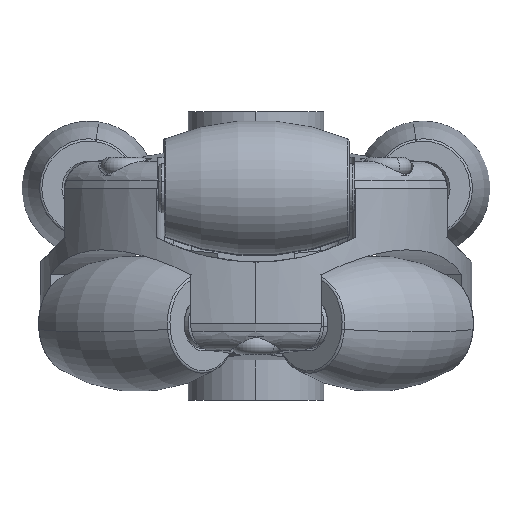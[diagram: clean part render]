
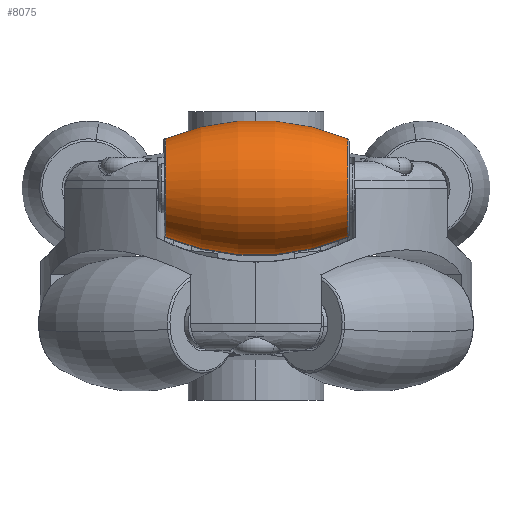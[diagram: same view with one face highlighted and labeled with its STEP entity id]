
A CAD part, left-side view. The second image highlights one B-rep face of the part: STEP entity #8075.
In plain terms, the highlighted toroidal (fillet/blend) face has major radius 13.55 mm and minor radius 19.05 mm.
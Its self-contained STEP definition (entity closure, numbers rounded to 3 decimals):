
#482 = EDGE_LOOP ( 'NONE', ( #10405, #10990, #2595, #3782 ) ) ;
#483 = DIRECTION ( 'NONE',  ( -1., 0., 0. ) ) ;
#692 = CIRCLE ( 'NONE', #7516, 19.05 ) ;
#1814 = CIRCLE ( 'NONE', #2888, 4.013 ) ;
#1968 = CARTESIAN_POINT ( 'NONE',  ( 211155.908, 8890.657, 0. ) ) ;
#2198 = TOROIDAL_SURFACE ( 'NONE', #10912, -13.55, 19.05 ) ;
#2464 = EDGE_CURVE ( 'NONE', #5186, #12121, #692, .T. ) ;
#2595 = ORIENTED_EDGE ( 'NONE', *, *, #11932, .F. ) ;
#2888 = AXIS2_PLACEMENT_3D ( 'NONE', #9676, #5365, #3916 ) ;
#2911 = EDGE_CURVE ( 'NONE', #5186, #13402, #1814, .T. ) ;
#3641 = VERTEX_POINT ( 'NONE', #9279 ) ;
#3782 = ORIENTED_EDGE ( 'NONE', *, *, #2464, .F. ) ;
#3916 = DIRECTION ( 'NONE',  ( 0., 0., 1. ) ) ;
#4996 = CIRCLE ( 'NONE', #8402, 4.013 ) ;
#5186 = VERTEX_POINT ( 'NONE', #6557 ) ;
#5307 = DIRECTION ( 'NONE',  ( 0., 0., -1. ) ) ;
#5365 = DIRECTION ( 'NONE',  ( -1., 0., 0. ) ) ;
#5976 = DIRECTION ( 'NONE',  ( 0., 0., 1. ) ) ;
#6244 = AXIS2_PLACEMENT_3D ( 'NONE', #13499, #10625, #9169 ) ;
#6557 = CARTESIAN_POINT ( 'NONE',  ( 211163.286, 8890.657, 4.013 ) ) ;
#6732 = DIRECTION ( 'NONE',  ( 0., -1., 0. ) ) ;
#7272 = CARTESIAN_POINT ( 'NONE',  ( 211163.286, 8890.657, -4.013 ) ) ;
#7413 = DIRECTION ( 'NONE',  ( -1., 0., 0. ) ) ;
#7516 = AXIS2_PLACEMENT_3D ( 'NONE', #8154, #6732, #5307 ) ;
#8075 = ADVANCED_FACE ( 'NONE', ( #11259 ), #2198, .T. ) ;
#8154 = CARTESIAN_POINT ( 'NONE',  ( 211155.908, 8890.657, -13.55 ) ) ;
#8402 = AXIS2_PLACEMENT_3D ( 'NONE', #11740, #7413, #5976 ) ;
#9169 = DIRECTION ( 'NONE',  ( 0., 0., 1. ) ) ;
#9279 = CARTESIAN_POINT ( 'NONE',  ( 211148.531, 8890.657, -4.013 ) ) ;
#9676 = CARTESIAN_POINT ( 'NONE',  ( 211163.286, 8890.657, 0. ) ) ;
#10405 = ORIENTED_EDGE ( 'NONE', *, *, #2911, .T. ) ;
#10625 = DIRECTION ( 'NONE',  ( 0., 1., 0. ) ) ;
#10912 = AXIS2_PLACEMENT_3D ( 'NONE', #1968, #483, #13124 ) ;
#10990 = ORIENTED_EDGE ( 'NONE', *, *, #11840, .T. ) ;
#11259 = FACE_OUTER_BOUND ( 'NONE', #482, .T. ) ;
#11740 = CARTESIAN_POINT ( 'NONE',  ( 211148.531, 8890.657, 0. ) ) ;
#11840 = EDGE_CURVE ( 'NONE', #13402, #3641, #12562, .T. ) ;
#11932 = EDGE_CURVE ( 'NONE', #12121, #3641, #4996, .T. ) ;
#12121 = VERTEX_POINT ( 'NONE', #12573 ) ;
#12562 = CIRCLE ( 'NONE', #6244, 19.05 ) ;
#12573 = CARTESIAN_POINT ( 'NONE',  ( 211148.531, 8890.657, 4.013 ) ) ;
#13124 = DIRECTION ( 'NONE',  ( 0., 0., 1. ) ) ;
#13402 = VERTEX_POINT ( 'NONE', #7272 ) ;
#13499 = CARTESIAN_POINT ( 'NONE',  ( 211155.908, 8890.657, 13.55 ) ) ;
